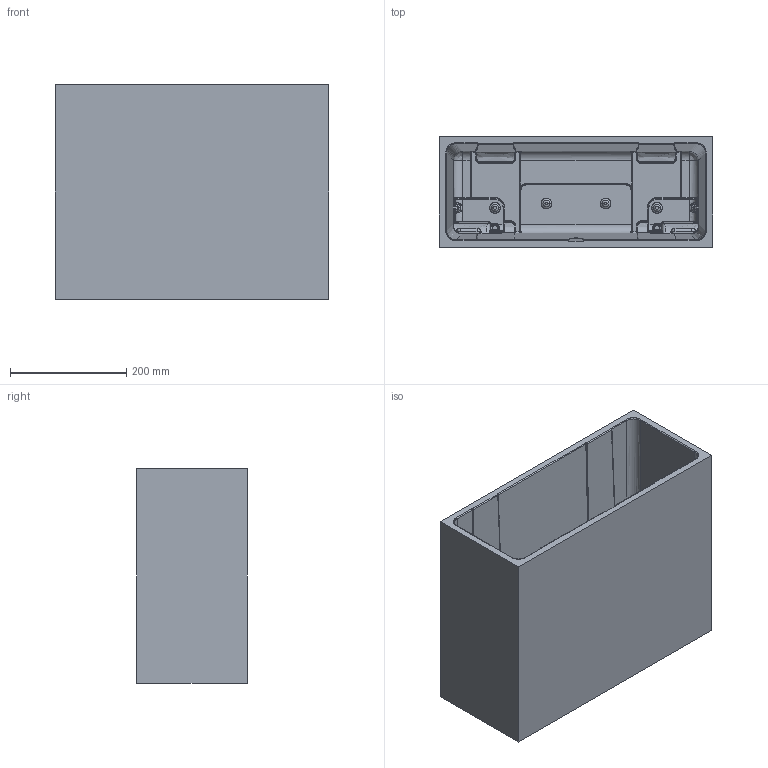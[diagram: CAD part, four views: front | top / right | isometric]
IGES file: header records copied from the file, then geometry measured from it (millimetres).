
Start section: C
Global section: file name: 2435-base_internal_tub.igs; native system: By Siemens PLM Incorporated; preprocessor: XPlus GENERIC/IGES 16.0.42; author: Author; organization: Title; date: 20150218.103343; units: millimetre
Bounding box: 469.9 x 190.5 x 368.3 mm (x, y, z)
Surface area: 1052099.6 mm2 (no closed solid volume)
Topology: 0 solids, 0 shells, 519 faces, 2478 edges, 2444 vertices
Faces by surface type: bspline 519
